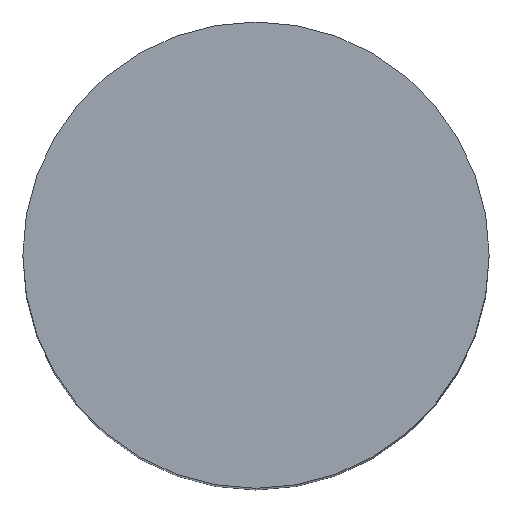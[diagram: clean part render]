
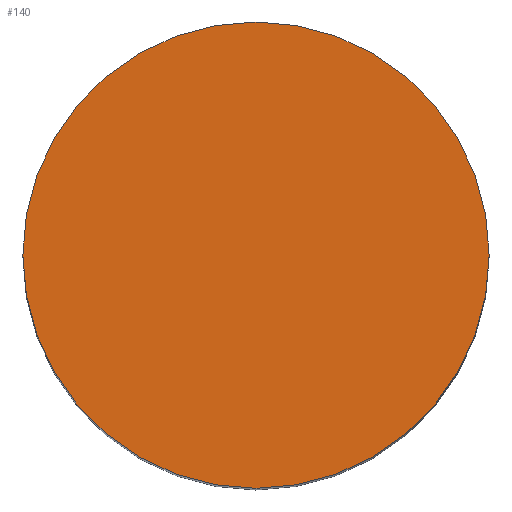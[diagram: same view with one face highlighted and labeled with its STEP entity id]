
A CAD part, top view. The second image highlights one B-rep face of the part: STEP entity #140.
In plain terms, the highlighted planar face has unit normal (0, 0, 1).
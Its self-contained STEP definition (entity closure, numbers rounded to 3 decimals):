
#24 = VERTEX_POINT('',#25);
#25 = CARTESIAN_POINT('',(18.,0.,75.));
#32 = CYLINDRICAL_SURFACE('',#33,18.);
#33 = AXIS2_PLACEMENT_3D('',#34,#35,#36);
#34 = CARTESIAN_POINT('',(0.,0.,0.));
#35 = DIRECTION('',(-0.,-0.,-1.));
#36 = DIRECTION('',(1.,0.,0.));
#51 = EDGE_CURVE('',#24,#24,#52,.T.);
#52 = SURFACE_CURVE('',#53,(#58,#65),.PCURVE_S1.);
#53 = CIRCLE('',#54,18.);
#54 = AXIS2_PLACEMENT_3D('',#55,#56,#57);
#55 = CARTESIAN_POINT('',(0.,0.,75.));
#56 = DIRECTION('',(0.,0.,1.));
#57 = DIRECTION('',(1.,0.,0.));
#58 = PCURVE('',#32,#59);
#59 = DEFINITIONAL_REPRESENTATION('',(#60),#64);
#60 = LINE('',#61,#62);
#61 = CARTESIAN_POINT('',(-0.,-75.));
#62 = VECTOR('',#63,1.);
#63 = DIRECTION('',(-1.,0.));
#64 = ( GEOMETRIC_REPRESENTATION_CONTEXT(2) 
PARAMETRIC_REPRESENTATION_CONTEXT() REPRESENTATION_CONTEXT('2D SPACE',''
  ) );
#65 = PCURVE('',#66,#71);
#66 = PLANE('',#67);
#67 = AXIS2_PLACEMENT_3D('',#68,#69,#70);
#68 = CARTESIAN_POINT('',(0.,0.,75.));
#69 = DIRECTION('',(0.,0.,1.));
#70 = DIRECTION('',(1.,0.,-0.));
#71 = DEFINITIONAL_REPRESENTATION('',(#72),#76);
#72 = CIRCLE('',#73,18.);
#73 = AXIS2_PLACEMENT_2D('',#74,#75);
#74 = CARTESIAN_POINT('',(0.,0.));
#75 = DIRECTION('',(1.,0.));
#76 = ( GEOMETRIC_REPRESENTATION_CONTEXT(2) 
PARAMETRIC_REPRESENTATION_CONTEXT() REPRESENTATION_CONTEXT('2D SPACE',''
  ) );
#140 = ADVANCED_FACE('',(#141),#66,.T.);
#141 = FACE_BOUND('',#142,.T.);
#142 = EDGE_LOOP('',(#143));
#143 = ORIENTED_EDGE('',*,*,#51,.T.);
